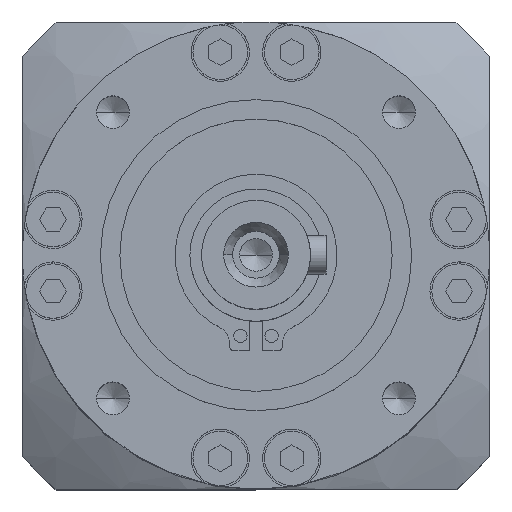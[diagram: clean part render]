
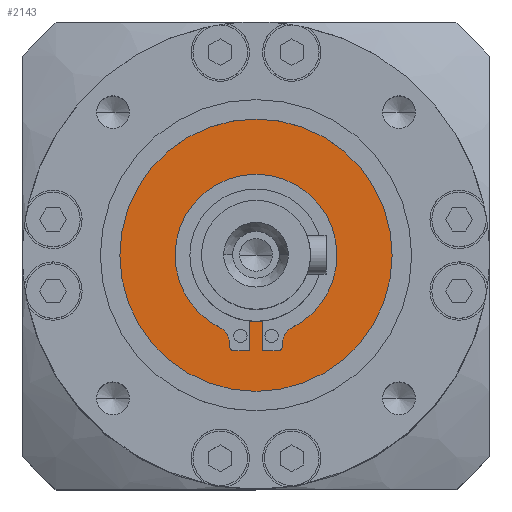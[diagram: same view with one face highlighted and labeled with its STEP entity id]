
A CAD part, top view. The second image highlights one B-rep face of the part: STEP entity #2143.
In plain terms, the highlighted planar face has unit normal (0, 0, 1).
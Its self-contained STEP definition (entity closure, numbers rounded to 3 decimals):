
#108 = DIRECTION ( 'NONE',  ( -1., 0., 0. ) ) ;
#110 = LINE ( 'NONE', #5229, #10856 ) ;
#397 = CIRCLE ( 'NONE', #19179, 10.4 ) ;
#462 = ORIENTED_EDGE ( 'NONE', *, *, #6806, .F. ) ;
#542 = EDGE_CURVE ( 'NONE', #11030, #17993, #21609, .T. ) ;
#619 = DIRECTION ( 'NONE',  ( -1., 0., 0. ) ) ;
#758 = CARTESIAN_POINT ( 'NONE',  ( -17.5, 0., -1. ) ) ;
#852 = ORIENTED_EDGE ( 'NONE', *, *, #5163, .F. ) ;
#1051 = DIRECTION ( 'NONE',  ( 0., 0., 1. ) ) ;
#1219 = VERTEX_POINT ( 'NONE', #758 ) ;
#1721 = EDGE_CURVE ( 'NONE', #6038, #12738, #4521, .T. ) ;
#1887 = CARTESIAN_POINT ( 'NONE',  ( -2.85, -12.257, -1. ) ) ;
#2040 = LINE ( 'NONE', #24269, #7773 ) ;
#2131 = EDGE_LOOP ( 'NONE', ( #18959, #18068 ) ) ;
#2143 = ADVANCED_FACE ( 'NONE', ( #18048, #5998 ), #20012, .F. ) ;
#2322 = EDGE_LOOP ( 'NONE', ( #20430, #22236, #4327, #4480, #19669, #22312, #462, #16091, #9664, #852, #15045, #24727, #24914, #21207 ) ) ;
#2382 = DIRECTION ( 'NONE',  ( 0., 0., 1. ) ) ;
#2750 = CIRCLE ( 'NONE', #18072, 17.5 ) ;
#3790 = AXIS2_PLACEMENT_3D ( 'NONE', #24226, #11859, #26204 ) ;
#3964 = CIRCLE ( 'NONE', #25852, 10.4 ) ;
#4021 = DIRECTION ( 'NONE',  ( -1., 0., 0. ) ) ;
#4076 = DIRECTION ( 'NONE',  ( 0., 0., 1. ) ) ;
#4101 = CARTESIAN_POINT ( 'NONE',  ( -2.85, -11.757, -1. ) ) ;
#4327 = ORIENTED_EDGE ( 'NONE', *, *, #24674, .F. ) ;
#4346 = VERTEX_POINT ( 'NONE', #22840 ) ;
#4480 = ORIENTED_EDGE ( 'NONE', *, *, #14568, .F. ) ;
#4521 = LINE ( 'NONE', #25388, #6912 ) ;
#5163 = EDGE_CURVE ( 'NONE', #17932, #11030, #15157, .T. ) ;
#5193 = DIRECTION ( 'NONE',  ( 0., 0., -1. ) ) ;
#5229 = CARTESIAN_POINT ( 'NONE',  ( 0., -12.257, -1. ) ) ;
#5265 = DIRECTION ( 'NONE',  ( 1., 0., 0. ) ) ;
#5302 = VERTEX_POINT ( 'NONE', #13210 ) ;
#5998 = FACE_OUTER_BOUND ( 'NONE', #2131, .T. ) ;
#6038 = VERTEX_POINT ( 'NONE', #1887 ) ;
#6523 = VECTOR ( 'NONE', #24399, 1000. ) ;
#6806 = EDGE_CURVE ( 'NONE', #18421, #24102, #397, .T. ) ;
#6912 = VECTOR ( 'NONE', #25420, 1000. ) ;
#6950 = CARTESIAN_POINT ( 'NONE',  ( 2.85, -12.257, -1. ) ) ;
#7197 = CARTESIAN_POINT ( 'NONE',  ( -5.85, -11.497, -1. ) ) ;
#7368 = CARTESIAN_POINT ( 'NONE',  ( -10.4, 0., -1. ) ) ;
#7773 = VECTOR ( 'NONE', #22114, 1000. ) ;
#9014 = EDGE_CURVE ( 'NONE', #14442, #24305, #2040, .T. ) ;
#9064 = CARTESIAN_POINT ( 'NONE',  ( 3.35, 0., -1. ) ) ;
#9102 = DIRECTION ( 'NONE',  ( 0., 1., 0. ) ) ;
#9664 = ORIENTED_EDGE ( 'NONE', *, *, #542, .F. ) ;
#9842 = CARTESIAN_POINT ( 'NONE',  ( -3.35, 0., -1. ) ) ;
#10561 = DIRECTION ( 'NONE',  ( 0., 0., 1. ) ) ;
#10584 = CIRCLE ( 'NONE', #14040, 10.4 ) ;
#10856 = VECTOR ( 'NONE', #5265, 1000. ) ;
#11030 = VERTEX_POINT ( 'NONE', #20359 ) ;
#11284 = VERTEX_POINT ( 'NONE', #17789 ) ;
#11660 = CIRCLE ( 'NONE', #25112, 0.5 ) ;
#11859 = DIRECTION ( 'NONE',  ( 0., 0., 1. ) ) ;
#11951 = DIRECTION ( 'NONE',  ( 0., 0., -1. ) ) ;
#12738 = VERTEX_POINT ( 'NONE', #25308 ) ;
#12971 = DIRECTION ( 'NONE',  ( 0., 1., 0. ) ) ;
#13210 = CARTESIAN_POINT ( 'NONE',  ( 17.5, 0., -1. ) ) ;
#13556 = DIRECTION ( 'NONE',  ( 0., 0., 1. ) ) ;
#13968 = CARTESIAN_POINT ( 'NONE',  ( 0., 0., -1. ) ) ;
#14040 = AXIS2_PLACEMENT_3D ( 'NONE', #25743, #13556, #619 ) ;
#14290 = CARTESIAN_POINT ( 'NONE',  ( -3.35, -11.757, -1. ) ) ;
#14415 = AXIS2_PLACEMENT_3D ( 'NONE', #7197, #11951, #108 ) ;
#14442 = VERTEX_POINT ( 'NONE', #15735 ) ;
#14568 = EDGE_CURVE ( 'NONE', #20609, #11284, #25999, .T. ) ;
#14686 = DIRECTION ( 'NONE',  ( -1., 0., 0. ) ) ;
#14719 = DIRECTION ( 'NONE',  ( 0., 0., 1. ) ) ;
#14747 = CARTESIAN_POINT ( 'NONE',  ( 2.85, -11.757, -1. ) ) ;
#15045 = ORIENTED_EDGE ( 'NONE', *, *, #16732, .F. ) ;
#15157 = CIRCLE ( 'NONE', #21783, 0.5 ) ;
#15273 = CARTESIAN_POINT ( 'NONE',  ( 0., 0., -1. ) ) ;
#15478 = VERTEX_POINT ( 'NONE', #7368 ) ;
#15611 = EDGE_CURVE ( 'NONE', #21053, #6038, #11660, .T. ) ;
#15735 = CARTESIAN_POINT ( 'NONE',  ( 0.85, -8.457, -1. ) ) ;
#16082 = DIRECTION ( 'NONE',  ( -1., 0., 0. ) ) ;
#16091 = ORIENTED_EDGE ( 'NONE', *, *, #19610, .F. ) ;
#16548 = CARTESIAN_POINT ( 'NONE',  ( 0.85, -12.257, -1. ) ) ;
#16732 = EDGE_CURVE ( 'NONE', #24305, #17932, #110, .T. ) ;
#17393 = DIRECTION ( 'NONE',  ( -1., 0., 0. ) ) ;
#17627 = EDGE_CURVE ( 'NONE', #5302, #1219, #2750, .T. ) ;
#17789 = CARTESIAN_POINT ( 'NONE',  ( -3.35, -11.497, -1. ) ) ;
#17932 = VERTEX_POINT ( 'NONE', #6950 ) ;
#17993 = VERTEX_POINT ( 'NONE', #24163 ) ;
#18030 = CARTESIAN_POINT ( 'NONE',  ( 5.85, -11.497, -1. ) ) ;
#18048 = FACE_BOUND ( 'NONE', #2322, .T. ) ;
#18068 = ORIENTED_EDGE ( 'NONE', *, *, #26558, .T. ) ;
#18072 = AXIS2_PLACEMENT_3D ( 'NONE', #23044, #10561, #25037 ) ;
#18421 = VERTEX_POINT ( 'NONE', #26283 ) ;
#18616 = EDGE_CURVE ( 'NONE', #15478, #20609, #3964, .T. ) ;
#18959 = ORIENTED_EDGE ( 'NONE', *, *, #17627, .T. ) ;
#19179 = AXIS2_PLACEMENT_3D ( 'NONE', #23233, #23216, #23144 ) ;
#19610 = EDGE_CURVE ( 'NONE', #17993, #18421, #23965, .T. ) ;
#19669 = ORIENTED_EDGE ( 'NONE', *, *, #18616, .F. ) ;
#19700 = DIRECTION ( 'NONE',  ( -1., 0., 0. ) ) ;
#19731 = DIRECTION ( 'NONE',  ( 0., 0., -1. ) ) ;
#19780 = CARTESIAN_POINT ( 'NONE',  ( 0., 0., -1. ) ) ;
#20010 = VECTOR ( 'NONE', #9102, 1000. ) ;
#20012 = PLANE ( 'NONE',  #21598 ) ;
#20068 = DIRECTION ( 'NONE',  ( -1., 0., 0. ) ) ;
#20161 = AXIS2_PLACEMENT_3D ( 'NONE', #13968, #1051, #16082 ) ;
#20359 = CARTESIAN_POINT ( 'NONE',  ( 3.35, -11.757, -1. ) ) ;
#20430 = ORIENTED_EDGE ( 'NONE', *, *, #1721, .F. ) ;
#20609 = VERTEX_POINT ( 'NONE', #22608 ) ;
#21053 = VERTEX_POINT ( 'NONE', #14290 ) ;
#21207 = ORIENTED_EDGE ( 'NONE', *, *, #23967, .F. ) ;
#21309 = CIRCLE ( 'NONE', #20161, 8.5 ) ;
#21377 = CARTESIAN_POINT ( 'NONE',  ( -0.85, 0., -1. ) ) ;
#21598 = AXIS2_PLACEMENT_3D ( 'NONE', #19780, #19731, #19700 ) ;
#21609 = LINE ( 'NONE', #9064, #20010 ) ;
#21783 = AXIS2_PLACEMENT_3D ( 'NONE', #14747, #14719, #14686 ) ;
#22114 = DIRECTION ( 'NONE',  ( 0., -1., 0. ) ) ;
#22236 = ORIENTED_EDGE ( 'NONE', *, *, #15611, .F. ) ;
#22312 = ORIENTED_EDGE ( 'NONE', *, *, #23578, .F. ) ;
#22608 = CARTESIAN_POINT ( 'NONE',  ( -4.716, -9.269, -1. ) ) ;
#22677 = LINE ( 'NONE', #9842, #6523 ) ;
#22840 = CARTESIAN_POINT ( 'NONE',  ( -0.85, -8.457, -1. ) ) ;
#23044 = CARTESIAN_POINT ( 'NONE',  ( 0., 0., -1. ) ) ;
#23144 = DIRECTION ( 'NONE',  ( -1., 0., 0. ) ) ;
#23216 = DIRECTION ( 'NONE',  ( 0., 0., 1. ) ) ;
#23233 = CARTESIAN_POINT ( 'NONE',  ( 0., 0., -1. ) ) ;
#23578 = EDGE_CURVE ( 'NONE', #24102, #15478, #10584, .T. ) ;
#23597 = VECTOR ( 'NONE', #12971, 1000. ) ;
#23762 = CARTESIAN_POINT ( 'NONE',  ( 10.4, 0., -1. ) ) ;
#23965 = CIRCLE ( 'NONE', #25594, 2.5 ) ;
#23967 = EDGE_CURVE ( 'NONE', #12738, #4346, #24213, .T. ) ;
#24091 = CIRCLE ( 'NONE', #3790, 17.5 ) ;
#24102 = VERTEX_POINT ( 'NONE', #23762 ) ;
#24163 = CARTESIAN_POINT ( 'NONE',  ( 3.35, -11.497, -1. ) ) ;
#24213 = LINE ( 'NONE', #21377, #23597 ) ;
#24226 = CARTESIAN_POINT ( 'NONE',  ( 0., 0., -1. ) ) ;
#24269 = CARTESIAN_POINT ( 'NONE',  ( 0.85, 0., -1. ) ) ;
#24305 = VERTEX_POINT ( 'NONE', #16548 ) ;
#24399 = DIRECTION ( 'NONE',  ( 0., -1., 0. ) ) ;
#24674 = EDGE_CURVE ( 'NONE', #11284, #21053, #22677, .T. ) ;
#24727 = ORIENTED_EDGE ( 'NONE', *, *, #9014, .F. ) ;
#24914 = ORIENTED_EDGE ( 'NONE', *, *, #26084, .F. ) ;
#25037 = DIRECTION ( 'NONE',  ( 1., 0., 0. ) ) ;
#25112 = AXIS2_PLACEMENT_3D ( 'NONE', #4101, #4076, #4021 ) ;
#25308 = CARTESIAN_POINT ( 'NONE',  ( -0.85, -12.257, -1. ) ) ;
#25388 = CARTESIAN_POINT ( 'NONE',  ( 0., -12.257, -1. ) ) ;
#25420 = DIRECTION ( 'NONE',  ( 1., 0., 0. ) ) ;
#25594 = AXIS2_PLACEMENT_3D ( 'NONE', #18030, #5193, #20068 ) ;
#25743 = CARTESIAN_POINT ( 'NONE',  ( 0., 0., -1. ) ) ;
#25852 = AXIS2_PLACEMENT_3D ( 'NONE', #15273, #2382, #17393 ) ;
#25999 = CIRCLE ( 'NONE', #14415, 2.5 ) ;
#26084 = EDGE_CURVE ( 'NONE', #4346, #14442, #21309, .T. ) ;
#26204 = DIRECTION ( 'NONE',  ( 1., 0., 0. ) ) ;
#26283 = CARTESIAN_POINT ( 'NONE',  ( 4.716, -9.269, -1. ) ) ;
#26558 = EDGE_CURVE ( 'NONE', #1219, #5302, #24091, .T. ) ;
